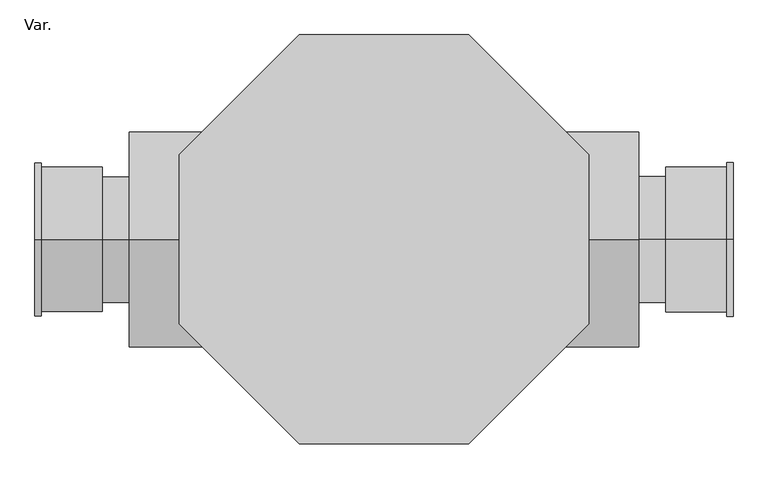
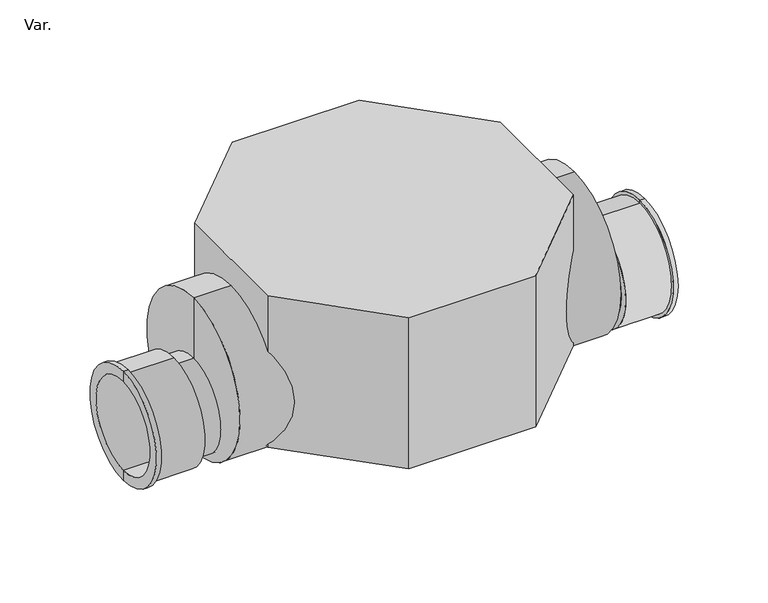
"""IFC4 building model written with IfcOpenShell, lengths in millimetres: pipe fitting geometry, PlastigamaWavin_Unionesdetubería_NovafortManholeMódular : Var.."""

from ifc_helpers import new_model, si_unit, frame, origin, origin_with_axes, place, context, project, spatial, polyline, circle_curve, outline, extrude, source, transform, mapped, element, save
from ifc_brep_helpers import plane_surface, cylinder_surface, revolved_surface, advanced_brep


def var_5d693930(model_context):
    return source(origin(), model_context, "Body", "SolidModel", [
        advanced_brep(
        [(654.49, 0.0, -77.76), (654.49, 0.0, 214.66), (492.79, 0.0, 214.66), (492.79, 0.0, -77.76), (654.49, 0.0, -100.55), (654.49, 0.0, 237.45), (796.49, 0.0, -100.55), (796.49, 0.0, 237.45), (796.49, 0.0, -110.55), (796.49, 0.0, 247.45), (811.49, 0.0, -110.55), (811.49, 0.0, 247.45), (811.49, 0.0, -77.76), (811.49, 0.0, 214.66), (669.49, 0.0, -77.76), (669.49, 0.0, 214.66), (669.49, 0.0, 68.45), (492.79, 0.0, 68.45)],
        [
            (0, 1, circle_curve(frame((654.49, 0.0, 68.45), z_axis=(-1.0, 0.0, 0.0), x_axis=(0.0, 0.0, 1.0)), 146.21)),
            (1, 2),
            (2, 3, circle_curve(frame((492.79, 0.0, 68.45), z_axis=(1.0, 0.0, 0.0), x_axis=(0.0, 0.0, 1.0)), 146.21)),
            (3, 0),
            (1, 0, circle_curve(frame((654.49, 0.0, 68.45), z_axis=(-1.0, 0.0, 0.0), x_axis=(0.0, 0.0, 1.0)), 146.21)),
            (3, 2, circle_curve(frame((492.79, 0.0, 68.45), z_axis=(1.0, 0.0, 0.0), x_axis=(0.0, 0.0, 1.0)), 146.21)),
            (4, 5, circle_curve(frame((654.49, 0.0, 68.45), z_axis=(-1.0, 0.0, 0.0), x_axis=(0.0, 0.0, 1.0)), 169.0)),
            (5, 1),
            (0, 4),
            (5, 4, circle_curve(frame((654.49, 0.0, 68.45), z_axis=(-1.0, 0.0, 0.0), x_axis=(0.0, 0.0, 1.0)), 169.0)),
            (6, 7, circle_curve(frame((796.49, 0.0, 68.45), z_axis=(-1.0, 0.0, 0.0), x_axis=(0.0, 0.0, 1.0)), 169.0)),
            (7, 5),
            (4, 6),
            (7, 6, circle_curve(frame((796.49, 0.0, 68.45), z_axis=(-1.0, 0.0, 0.0), x_axis=(0.0, 0.0, 1.0)), 169.0)),
            (8, 9, circle_curve(frame((796.49, 0.0, 68.45), z_axis=(-1.0, 0.0, 0.0), x_axis=(0.0, 0.0, 1.0)), 179.0)),
            (9, 7),
            (6, 8),
            (9, 8, circle_curve(frame((796.49, 0.0, 68.45), z_axis=(-1.0, 0.0, 0.0), x_axis=(0.0, 0.0, 1.0)), 179.0)),
            (10, 11, circle_curve(frame((811.49, 0.0, 68.45), z_axis=(-1.0, 0.0, 0.0), x_axis=(0.0, 0.0, 1.0)), 179.0)),
            (11, 9),
            (8, 10),
            (11, 10, circle_curve(frame((811.49, 0.0, 68.45), z_axis=(-1.0, 0.0, 0.0), x_axis=(0.0, 0.0, 1.0)), 179.0)),
            (12, 13, circle_curve(frame((811.49, 0.0, 68.45), z_axis=(-1.0, 0.0, 0.0), x_axis=(0.0, 0.0, 1.0)), 146.21)),
            (13, 11),
            (10, 12),
            (13, 12, circle_curve(frame((811.49, 0.0, 68.45), z_axis=(-1.0, 0.0, 0.0), x_axis=(0.0, 0.0, 1.0)), 146.21)),
            (14, 15, circle_curve(frame((669.49, 0.0, 68.45), z_axis=(-1.0, 0.0, 0.0), x_axis=(0.0, 0.0, 1.0)), 146.21)),
            (15, 13),
            (12, 14),
            (15, 14, circle_curve(frame((669.49, 0.0, 68.45), z_axis=(-1.0, 0.0, 0.0), x_axis=(0.0, 0.0, 1.0)), 146.21)),
            (16, 15),
            (14, 16),
            (2, 17),
            (17, 3),
        ],
        [
            cylinder_surface(frame((847.49, 0.0, 68.45), z_axis=(1.0, 0.0, 0.0), x_axis=(0.0, 0.0, 1.0)), 146.21),
            plane_surface(frame((654.49, 0.0, 68.45), z_axis=(-1.0, 0.0, 0.0), x_axis=(0.0, 0.0, 1.0))),
            cylinder_surface(frame((847.49, 0.0, 68.45), z_axis=(1.0, 0.0, 0.0), x_axis=(0.0, 0.0, 1.0)), 169.0),
            plane_surface(frame((796.49, 0.0, 68.45), z_axis=(-1.0, 0.0, 0.0), x_axis=(0.0, 0.0, 1.0))),
            cylinder_surface(frame((847.49, 0.0, 68.45), z_axis=(1.0, 0.0, 0.0), x_axis=(0.0, 0.0, 1.0)), 179.0),
            plane_surface(frame((811.49, 0.0, 68.45), z_axis=(1.0, 0.0, 0.0), x_axis=(0.0, 0.0, 1.0))),
            revolved_surface(polyline([(811.49, 0.0, 214.66000000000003), (669.49, 0.0, 214.66000000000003)]), (847.49, 0.0, 68.45), (1.0, 0.0, 0.0)),
            plane_surface(frame((669.49, 0.0, 68.45), z_axis=(1.0, 0.0, 0.0), x_axis=(0.0, 0.0, 1.0))),
            plane_surface(frame((492.79, 0.0, 68.45), z_axis=(-1.0, 0.0, 0.0), x_axis=(0.0, 0.0, 1.0))),
        ],
        [
            (0, [[1, 2, 3, 4]]),
            (0, [[5, -4, 6, -2]]),
            (1, [[7, 8, -1, 9]]),
            (1, [[10, -9, -5, -8]]),
            (2, [[11, 12, -7, 13]]),
            (2, [[14, -13, -10, -12]]),
            (3, [[15, 16, -11, 17]]),
            (3, [[18, -17, -14, -16]]),
            (4, [[19, 20, -15, 21]]),
            (4, [[22, -21, -18, -20]]),
            (5, [[23, 24, -19, 25]]),
            (5, [[26, -25, -22, -24]]),
            (6, [[27, 28, -23, 29]]),
            (6, [[30, -29, -26, -28]]),
            (7, [[31, -27, 32]]),
            (7, [[-32, -30, -31]]),
            (8, [[-3, 33, 34]]),
            (8, [[-6, -34, -33]]),
        ],
    ),
        advanced_brep(
        [(-654.49, 0.0, -77.76), (-654.49, 0.0, 214.66), (-492.79, 0.0, 214.66), (-492.79, 0.0, -77.76), (-654.49, 0.0, -100.55), (-654.49, 0.0, 237.45), (-796.49, 0.0, -100.55), (-796.49, 0.0, 237.45), (-796.49, 0.0, -110.55), (-796.49, 0.0, 247.45), (-811.49, 0.0, -110.55), (-811.49, 0.0, 247.45), (-811.49, 0.0, -77.76), (-811.49, 0.0, 214.66), (-669.49, 0.0, -77.76), (-669.49, 0.0, 214.66), (-669.49, 0.0, 68.45), (-492.79, 0.0, 68.45)],
        [
            (0, 1, circle_curve(frame((-654.49, 0.0, 68.45), z_axis=(1.0, 0.0, 0.0), x_axis=(0.0, 0.0, 1.0)), 146.21)),
            (1, 2),
            (2, 3, circle_curve(frame((-492.79, 0.0, 68.45), z_axis=(-1.0, 0.0, 0.0), x_axis=(0.0, 0.0, 1.0)), 146.21)),
            (3, 0),
            (1, 0, circle_curve(frame((-654.49, 0.0, 68.45), z_axis=(1.0, 0.0, 0.0), x_axis=(0.0, 0.0, 1.0)), 146.21)),
            (3, 2, circle_curve(frame((-492.79, 0.0, 68.45), z_axis=(-1.0, 0.0, 0.0), x_axis=(0.0, 0.0, 1.0)), 146.21)),
            (4, 5, circle_curve(frame((-654.49, 0.0, 68.45), z_axis=(1.0, 0.0, 0.0), x_axis=(0.0, 0.0, 1.0)), 169.0)),
            (5, 1),
            (0, 4),
            (5, 4, circle_curve(frame((-654.49, 0.0, 68.45), z_axis=(1.0, 0.0, 0.0), x_axis=(0.0, 0.0, 1.0)), 169.0)),
            (6, 7, circle_curve(frame((-796.49, 0.0, 68.45), z_axis=(1.0, 0.0, 0.0), x_axis=(0.0, 0.0, 1.0)), 169.0)),
            (7, 5),
            (4, 6),
            (7, 6, circle_curve(frame((-796.49, 0.0, 68.45), z_axis=(1.0, 0.0, 0.0), x_axis=(0.0, 0.0, 1.0)), 169.0)),
            (8, 9, circle_curve(frame((-796.49, 0.0, 68.45), z_axis=(1.0, 0.0, 0.0), x_axis=(0.0, 0.0, 1.0)), 179.0)),
            (9, 7),
            (6, 8),
            (9, 8, circle_curve(frame((-796.49, 0.0, 68.45), z_axis=(1.0, 0.0, 0.0), x_axis=(0.0, 0.0, 1.0)), 179.0)),
            (10, 11, circle_curve(frame((-811.49, 0.0, 68.45), z_axis=(1.0, 0.0, 0.0), x_axis=(0.0, 0.0, 1.0)), 179.0)),
            (11, 9),
            (8, 10),
            (11, 10, circle_curve(frame((-811.49, 0.0, 68.45), z_axis=(1.0, 0.0, 0.0), x_axis=(0.0, 0.0, 1.0)), 179.0)),
            (12, 13, circle_curve(frame((-811.49, 0.0, 68.45), z_axis=(1.0, 0.0, 0.0), x_axis=(0.0, 0.0, 1.0)), 146.21)),
            (13, 11),
            (10, 12),
            (13, 12, circle_curve(frame((-811.49, 0.0, 68.45), z_axis=(1.0, 0.0, 0.0), x_axis=(0.0, 0.0, 1.0)), 146.21)),
            (14, 15, circle_curve(frame((-669.49, 0.0, 68.45), z_axis=(1.0, 0.0, 0.0), x_axis=(0.0, 0.0, 1.0)), 146.21)),
            (15, 13),
            (12, 14),
            (15, 14, circle_curve(frame((-669.49, 0.0, 68.45), z_axis=(1.0, 0.0, 0.0), x_axis=(0.0, 0.0, 1.0)), 146.21)),
            (16, 15),
            (14, 16),
            (2, 17),
            (17, 3),
        ],
        [
            cylinder_surface(frame((-847.49, 0.0, 68.45), z_axis=(-1.0, 0.0, 0.0), x_axis=(0.0, 0.0, 1.0)), 146.21),
            plane_surface(frame((-654.49, 0.0, 68.45), z_axis=(1.0, 0.0, 0.0), x_axis=(0.0, 0.0, 1.0))),
            cylinder_surface(frame((-847.49, 0.0, 68.45), z_axis=(-1.0, 0.0, 0.0), x_axis=(0.0, 0.0, 1.0)), 169.0),
            plane_surface(frame((-796.49, 0.0, 68.45), z_axis=(1.0, 0.0, 0.0), x_axis=(0.0, 0.0, 1.0))),
            cylinder_surface(frame((-847.49, 0.0, 68.45), z_axis=(-1.0, 0.0, 0.0), x_axis=(0.0, 0.0, 1.0)), 179.0),
            plane_surface(frame((-811.49, 0.0, 68.45), z_axis=(-1.0, 0.0, 0.0), x_axis=(0.0, 0.0, 1.0))),
            revolved_surface(polyline([(-811.49, 0.0, 214.66000000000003), (-669.49, 0.0, 214.66000000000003)]), (-847.49, 0.0, 68.45), (-1.0, 0.0, 0.0)),
            plane_surface(frame((-669.49, 0.0, 68.45), z_axis=(-1.0, 0.0, 0.0), x_axis=(0.0, 0.0, 1.0))),
            plane_surface(frame((-492.79, 0.0, 68.45), z_axis=(1.0, 0.0, 0.0), x_axis=(0.0, 0.0, 1.0))),
        ],
        [
            (0, [[1, 2, 3, 4]]),
            (0, [[5, -4, 6, -2]]),
            (1, [[7, 8, -1, 9]]),
            (1, [[10, -9, -5, -8]]),
            (2, [[11, 12, -7, 13]]),
            (2, [[14, -13, -10, -12]]),
            (3, [[15, 16, -11, 17]]),
            (3, [[18, -17, -14, -16]]),
            (4, [[19, 20, -15, 21]]),
            (4, [[22, -21, -18, -20]]),
            (5, [[23, 24, -19, 25]]),
            (5, [[26, -25, -22, -24]]),
            (6, [[27, 28, -23, 29]]),
            (6, [[30, -29, -26, -28]]),
            (7, [[31, -27, 32]]),
            (7, [[-32, -30, -31]]),
            (8, [[-3, 33, 34]]),
            (8, [[-6, -34, -33]]),
        ],
    ),
        advanced_brep(
        [(-592.49, 0.0, -87.76), (-592.49, 0.0, 412.24), (0.0, 0.0, 412.24), (0.0, 0.0, -87.76), (-592.49, 0.0, 162.24), (0.0, 0.0, 162.24)],
        [
            (0, 1, circle_curve(frame((-592.49, 0.0, 162.24), z_axis=(1.0, 0.0, 0.0), x_axis=(0.0, 0.0, 1.0)), 250.0)),
            (1, 2),
            (2, 3, circle_curve(frame((0.0, 0.0, 162.24), z_axis=(-1.0, 0.0, 0.0), x_axis=(0.0, 0.0, 1.0)), 250.0)),
            (3, 0),
            (1, 0, circle_curve(frame((-592.49, 0.0, 162.24), z_axis=(1.0, 0.0, 0.0), x_axis=(0.0, 0.0, 1.0)), 250.0)),
            (3, 2, circle_curve(frame((0.0, 0.0, 162.24), z_axis=(-1.0, 0.0, 0.0), x_axis=(0.0, 0.0, 1.0)), 250.0)),
            (4, 1),
            (0, 4),
            (2, 5),
            (5, 3),
        ],
        [
            cylinder_surface(frame((-592.49, 0.0, 162.24), z_axis=(-1.0, 0.0, 0.0), x_axis=(0.0, 0.0, 1.0)), 250.0),
            plane_surface(frame((-592.49, 0.0, 162.24), z_axis=(-1.0, 0.0, 0.0), x_axis=(0.0, 0.0, 1.0))),
            plane_surface(frame((0.0, 0.0, 162.24), z_axis=(1.0, 0.0, 0.0), x_axis=(0.0, 0.0, 1.0))),
        ],
        [
            (0, [[1, 2, 3, 4]]),
            (0, [[5, -4, 6, -2]]),
            (1, [[7, -1, 8]]),
            (1, [[-8, -5, -7]]),
            (2, [[-3, 9, 10]]),
            (2, [[-6, -10, -9]]),
        ],
    ),
        advanced_brep(
        [(0.0, 0.0, -87.76), (0.0, 0.0, 412.24), (592.49, 0.0, 412.24), (592.49, 0.0, -87.76), (0.0, 0.0, 162.24), (592.49, 0.0, 162.24)],
        [
            (0, 1, circle_curve(frame((0.0, 0.0, 162.24), z_axis=(1.0, 0.0, 0.0), x_axis=(0.0, 0.0, 1.0)), 250.0)),
            (1, 2),
            (2, 3, circle_curve(frame((592.49, 0.0, 162.24), z_axis=(-1.0, 0.0, 0.0), x_axis=(0.0, 0.0, 1.0)), 250.0)),
            (3, 0),
            (1, 0, circle_curve(frame((0.0, 0.0, 162.24), z_axis=(1.0, 0.0, 0.0), x_axis=(0.0, 0.0, 1.0)), 250.0)),
            (3, 2, circle_curve(frame((592.49, 0.0, 162.24), z_axis=(-1.0, 0.0, 0.0), x_axis=(0.0, 0.0, 1.0)), 250.0)),
            (4, 1),
            (0, 4),
            (2, 5),
            (5, 3),
        ],
        [
            cylinder_surface(frame((0.0, 0.0, 162.24), z_axis=(-1.0, 0.0, 0.0), x_axis=(0.0, 0.0, 1.0)), 250.0),
            plane_surface(frame((0.0, 0.0, 162.24), z_axis=(-1.0, 0.0, 0.0), x_axis=(0.0, 0.0, 1.0))),
            plane_surface(frame((592.49, 0.0, 162.24), z_axis=(1.0, 0.0, 0.0), x_axis=(0.0, 0.0, 1.0))),
        ],
        [
            (0, [[1, 2, 3, 4]]),
            (0, [[5, -4, 6, -2]]),
            (1, [[7, -1, 8]]),
            (1, [[-8, -5, -7]]),
            (2, [[-3, 9, 10]]),
            (2, [[-6, -10, -9]]),
        ],
    ),
        extrude(outline(polyline([(197.0832089, 475.79), (475.79, 197.0832089), (475.79, -197.0832089), (197.0832089, -475.79), (-197.0832089, -475.79), (-475.79, -197.08), (-475.79, 197.08), (-197.0832089, 475.79), (197.0832089, 475.79)])), origin_with_axes(), (0.0, 0.0, 1.0), 497.49),
    ])


if __name__ == "__main__":
    model = new_model("IFC4")
    model_context = context("Model", 3, world=origin())
    ifc_project = project(units=[si_unit("LENGTHUNIT", "METRE", prefix="MILLI")], contexts=[model_context])
    site = spatial("IfcSite", under=ifc_project)
    building = spatial("IfcBuilding", under=site)
    placement = place(None, origin())
    var_shape = var_5d693930(model_context)
    element("IfcPipeFitting", 1, ObjectType="PlastigamaWavin_Unionesdetubería_NovafortManholeMódular : Var.", at=placement, inside=building, context=model_context, shape_type="MappedRepresentation", body=[
        mapped(var_shape, transform((0.0, 0.0, 0.0), x_axis=(1.0, 0.0, 0.0), y_axis=(0.0, 1.0, 0.0), z_axis=(0.0, 0.0, 1.0))),
    ])
    save(model, "model.ifc")
